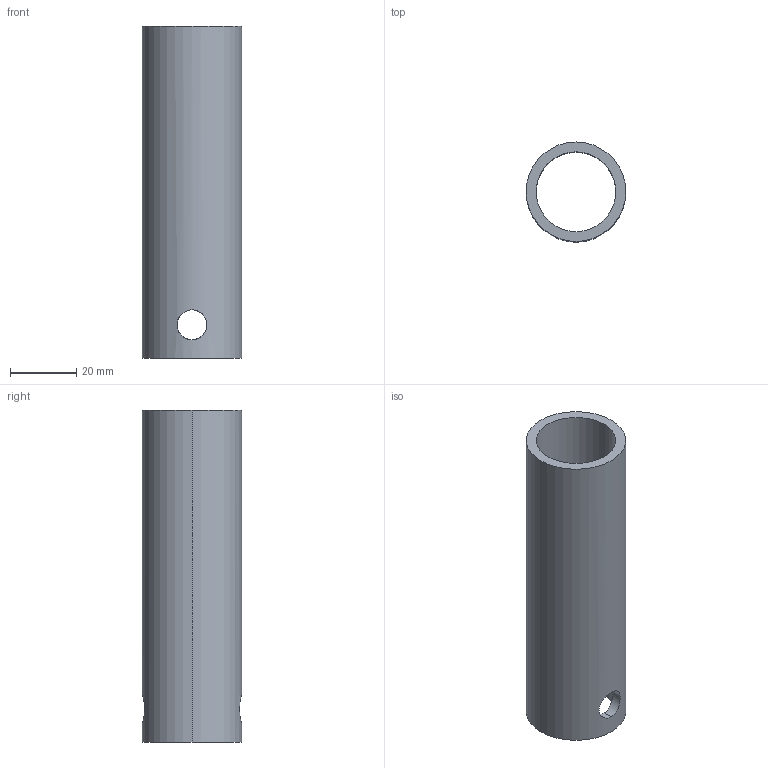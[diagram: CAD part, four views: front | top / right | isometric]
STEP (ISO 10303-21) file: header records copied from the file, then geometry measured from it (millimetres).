
FILE_DESCRIPTION (( 'STEP AP214' ), '1' );
FILE_NAME ('SMBY30-100.STEP', '2023-01-05T09:26:48', ( 'Windows User' ), ( 'P R C' ), 'SwSTEP 2.0', 'SolidWorks 2018', '' );
FILE_SCHEMA (( 'AUTOMOTIVE_DESIGN' ));
Length unit declared in the file: millimetre
Products named in the file (1): SMBY30-100
Bounding box: 30 x 30 x 100 mm (x, y, z)
Volume: 25059.6 mm3; surface area: 17390 mm2
Topology: 1 solids, 1 shells, 10 faces, 24 edges, 16 vertices
Faces by surface type: cylinder 8, plane 2
Entity records: 620 total; most frequent: CARTESIAN_POINT 323, ORIENTED_EDGE 48, DIRECTION 46, EDGE_CURVE 24, AXIS2_PLACEMENT_3D 19, VERTEX_POINT 16, EDGE_LOOP 16, ADVANCED_FACE 10
